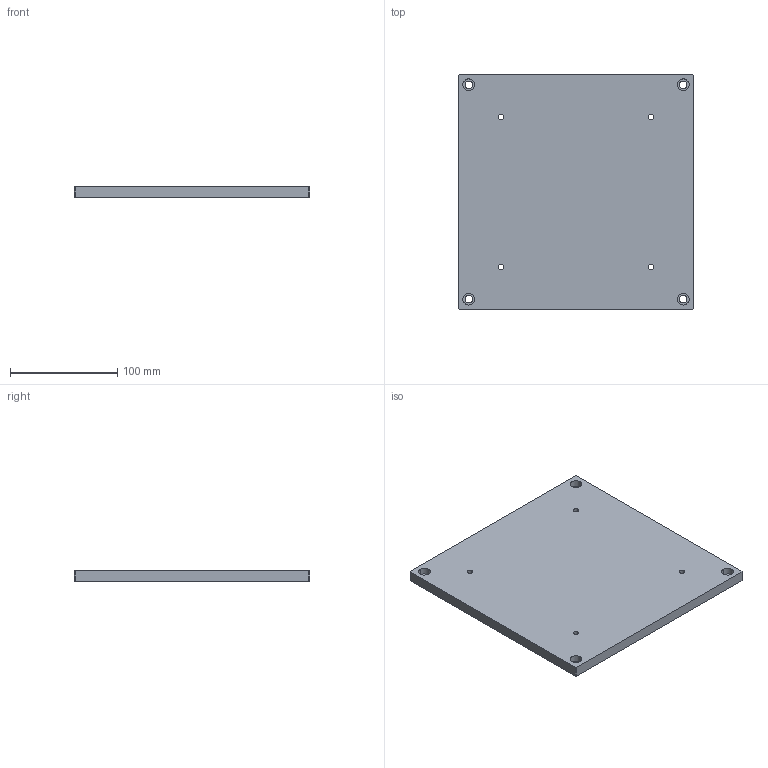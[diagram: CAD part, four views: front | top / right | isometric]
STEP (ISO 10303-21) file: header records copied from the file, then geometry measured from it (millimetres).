
FILE_DESCRIPTION( (''), '2;1');
FILE_NAME ('SPJ-22.stp','2020-07-27T13:23:24',(''),(''),'spGate 15.6.6','','');
FILE_SCHEMA (('AUTOMOTIVE_DESIGN'));
Length unit declared in the file: millimetre
Products named in the file (2): Assembly; SPJ-22-prt0
Assembly tree (1 placements, depth 2):
  Assembly
    SPJ-22-prt0
Bounding box: 220 x 220 x 10 mm (x, y, z)
Volume: 480185 mm3; surface area: 106942.3 mm2
Topology: 1 solids, 1 shells, 38 faces, 96 edges, 64 vertices
Faces by surface type: cylinder 24, plane 14
Entity records: 1984 total; most frequent: CARTESIAN_POINT 226, DIRECTION 204, ORIENTED_EDGE 192, COLOUR_RGB 135, PRESENTATION_STYLE_ASSIGNMENT 135, STYLED_ITEM 135, EDGE_CURVE 96, DRAUGHTING_PRE_DEFINED_CURVE_FONT 96
